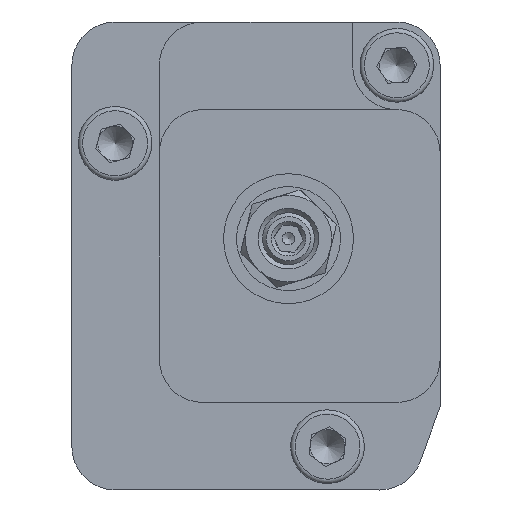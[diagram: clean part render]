
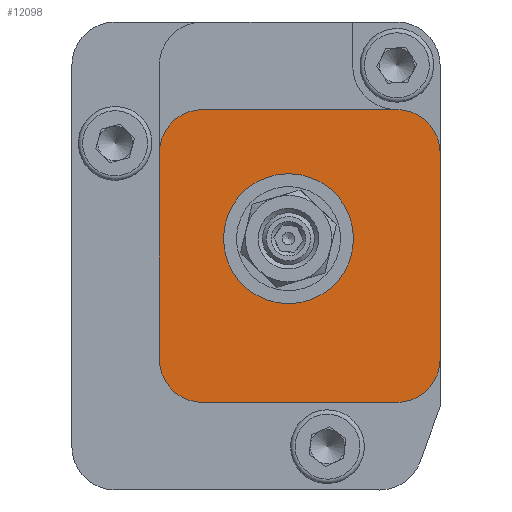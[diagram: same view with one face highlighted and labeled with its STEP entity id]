
A CAD part, left-side view. The second image highlights one B-rep face of the part: STEP entity #12098.
In plain terms, the highlighted planar face has unit normal (-1, 0, 0).
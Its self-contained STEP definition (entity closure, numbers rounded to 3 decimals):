
#286 = DIRECTION ( 'NONE',  ( 0., -1., 0. ) ) ;
#316 = CARTESIAN_POINT ( 'NONE',  ( 0., -15.1, -38.9 ) ) ;
#343 = CARTESIAN_POINT ( 'NONE',  ( 0., -15.1, -10.1 ) ) ;
#447 = DIRECTION ( 'NONE',  ( 0., 0., 1. ) ) ;
#638 = CARTESIAN_POINT ( 'NONE',  ( 0., -37.5, -10.1 ) ) ;
#777 = ORIENTED_EDGE ( 'NONE', *, *, #5964, .T. ) ;
#885 = CARTESIAN_POINT ( 'NONE',  ( 0., -42.5, -15.1 ) ) ;
#925 = CARTESIAN_POINT ( 'NONE',  ( 0., -25., -17.5 ) ) ;
#1066 = VERTEX_POINT ( 'NONE', #7276 ) ;
#1255 = CIRCLE ( 'NONE', #4148, 7.5 ) ;
#1418 = EDGE_LOOP ( 'NONE', ( #3616 ) ) ;
#1421 = CARTESIAN_POINT ( 'NONE',  ( 0., -10.1, 0. ) ) ;
#1487 = VERTEX_POINT ( 'NONE', #4501 ) ;
#1687 = EDGE_CURVE ( 'NONE', #8844, #8844, #1255, .T. ) ;
#1809 = VERTEX_POINT ( 'NONE', #885 ) ;
#1829 = VERTEX_POINT ( 'NONE', #638 ) ;
#2168 = CARTESIAN_POINT ( 'NONE',  ( 0., 0., -43.9 ) ) ;
#2743 = DIRECTION ( 'NONE',  ( -1., 0., 0. ) ) ;
#2881 = LINE ( 'NONE', #6834, #4669 ) ;
#3466 = DIRECTION ( 'NONE',  ( 0., -1., 0. ) ) ;
#3590 = DIRECTION ( 'NONE',  ( -1., 0., 0. ) ) ;
#3616 = ORIENTED_EDGE ( 'NONE', *, *, #1687, .F. ) ;
#3786 = DIRECTION ( 'NONE',  ( 0., 0., 1. ) ) ;
#3794 = CARTESIAN_POINT ( 'NONE',  ( 0., 0., -54. ) ) ;
#3834 = CIRCLE ( 'NONE', #5498, 5. ) ;
#3985 = EDGE_CURVE ( 'NONE', #12710, #10089, #6900, .T. ) ;
#4020 = ORIENTED_EDGE ( 'NONE', *, *, #8705, .T. ) ;
#4148 = AXIS2_PLACEMENT_3D ( 'NONE', #5387, #9340, #447 ) ;
#4197 = CARTESIAN_POINT ( 'NONE',  ( 0., -37.5, -43.9 ) ) ;
#4501 = CARTESIAN_POINT ( 'NONE',  ( 0., -10.1, -15.1 ) ) ;
#4570 = CARTESIAN_POINT ( 'NONE',  ( 0., -42.5, -38.9 ) ) ;
#4665 = CARTESIAN_POINT ( 'NONE',  ( 0., -15.1, -43.9 ) ) ;
#4669 = VECTOR ( 'NONE', #3786, 1000. ) ;
#4713 = CIRCLE ( 'NONE', #12164, 5. ) ;
#4741 = EDGE_CURVE ( 'NONE', #1809, #1829, #4713, .T. ) ;
#4798 = ORIENTED_EDGE ( 'NONE', *, *, #10600, .F. ) ;
#5095 = AXIS2_PLACEMENT_3D ( 'NONE', #3794, #3590, #3466 ) ;
#5236 = DIRECTION ( 'NONE',  ( 0., 0., 1. ) ) ;
#5387 = CARTESIAN_POINT ( 'NONE',  ( 0., -25., -25. ) ) ;
#5498 = AXIS2_PLACEMENT_3D ( 'NONE', #316, #11279, #7196 ) ;
#5712 = VERTEX_POINT ( 'NONE', #343 ) ;
#5868 = PLANE ( 'NONE',  #5095 ) ;
#5964 = EDGE_CURVE ( 'NONE', #7902, #1809, #2881, .T. ) ;
#6124 = DIRECTION ( 'NONE',  ( 0., 1., 0. ) ) ;
#6139 = DIRECTION ( 'NONE',  ( -1., 0., 0. ) ) ;
#6447 = AXIS2_PLACEMENT_3D ( 'NONE', #9311, #6139, #286 ) ;
#6501 = ORIENTED_EDGE ( 'NONE', *, *, #3985, .F. ) ;
#6606 = CARTESIAN_POINT ( 'NONE',  ( 0., 0., -10.1 ) ) ;
#6834 = CARTESIAN_POINT ( 'NONE',  ( 0., -42.5, -54. ) ) ;
#6900 = LINE ( 'NONE', #2168, #9080 ) ;
#7196 = DIRECTION ( 'NONE',  ( 0., -1., 0. ) ) ;
#7268 = EDGE_CURVE ( 'NONE', #1066, #10089, #3834, .T. ) ;
#7276 = CARTESIAN_POINT ( 'NONE',  ( 0., -10.1, -38.9 ) ) ;
#7497 = EDGE_CURVE ( 'NONE', #1066, #1487, #11133, .T. ) ;
#7684 = FACE_OUTER_BOUND ( 'NONE', #11005, .T. ) ;
#7902 = VERTEX_POINT ( 'NONE', #4570 ) ;
#7962 = VECTOR ( 'NONE', #9235, 1000. ) ;
#8603 = ORIENTED_EDGE ( 'NONE', *, *, #7268, .T. ) ;
#8634 = DIRECTION ( 'NONE',  ( 0., -1., 0. ) ) ;
#8705 = EDGE_CURVE ( 'NONE', #5712, #1487, #12638, .T. ) ;
#8713 = ORIENTED_EDGE ( 'NONE', *, *, #7497, .F. ) ;
#8840 = ORIENTED_EDGE ( 'NONE', *, *, #11891, .T. ) ;
#8844 = VERTEX_POINT ( 'NONE', #925 ) ;
#9080 = VECTOR ( 'NONE', #6124, 1000. ) ;
#9235 = DIRECTION ( 'NONE',  ( 0., -1., 0. ) ) ;
#9311 = CARTESIAN_POINT ( 'NONE',  ( 0., -15.1, -15.1 ) ) ;
#9340 = DIRECTION ( 'NONE',  ( -1., 0., 0. ) ) ;
#9506 = LINE ( 'NONE', #6606, #7962 ) ;
#9616 = DIRECTION ( 'NONE',  ( 0., -1., 0. ) ) ;
#10089 = VERTEX_POINT ( 'NONE', #4665 ) ;
#10600 = EDGE_CURVE ( 'NONE', #5712, #1829, #9506, .T. ) ;
#11005 = EDGE_LOOP ( 'NONE', ( #777, #12298, #4798, #4020, #8713, #8603, #6501, #8840 ) ) ;
#11102 = AXIS2_PLACEMENT_3D ( 'NONE', #11547, #2743, #8634 ) ;
#11133 = LINE ( 'NONE', #1421, #12303 ) ;
#11279 = DIRECTION ( 'NONE',  ( -1., 0., 0. ) ) ;
#11547 = CARTESIAN_POINT ( 'NONE',  ( 0., -37.5, -38.9 ) ) ;
#11891 = EDGE_CURVE ( 'NONE', #12710, #7902, #12745, .T. ) ;
#12098 = ADVANCED_FACE ( 'NONE', ( #12656, #7684 ), #5868, .T. ) ;
#12164 = AXIS2_PLACEMENT_3D ( 'NONE', #12600, #12409, #9616 ) ;
#12298 = ORIENTED_EDGE ( 'NONE', *, *, #4741, .T. ) ;
#12303 = VECTOR ( 'NONE', #5236, 1000. ) ;
#12409 = DIRECTION ( 'NONE',  ( -1., 0., 0. ) ) ;
#12600 = CARTESIAN_POINT ( 'NONE',  ( 0., -37.5, -15.1 ) ) ;
#12638 = CIRCLE ( 'NONE', #6447, 5. ) ;
#12656 = FACE_BOUND ( 'NONE', #1418, .T. ) ;
#12710 = VERTEX_POINT ( 'NONE', #4197 ) ;
#12745 = CIRCLE ( 'NONE', #11102, 5. ) ;
